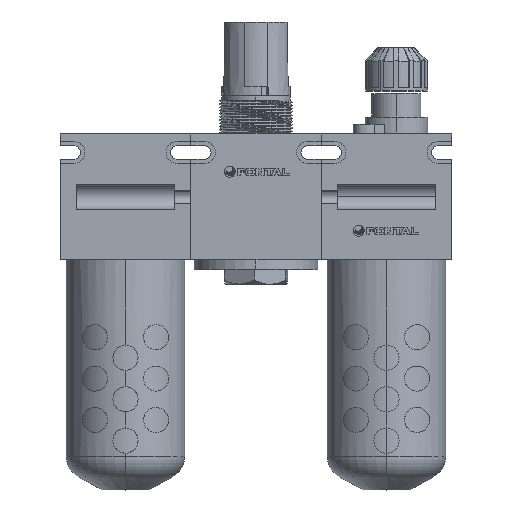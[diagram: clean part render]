
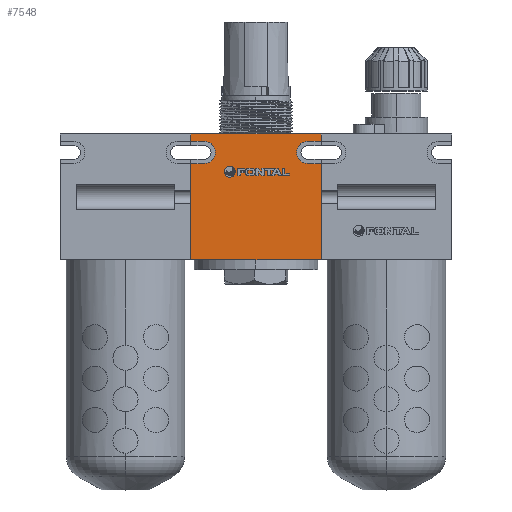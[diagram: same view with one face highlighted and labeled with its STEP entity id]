
A CAD part, top view. The second image highlights one B-rep face of the part: STEP entity #7548.
In plain terms, the highlighted planar face has unit normal (0, 0, 1).
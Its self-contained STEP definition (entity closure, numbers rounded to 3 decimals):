
#214 = DIRECTION ( 'NONE',  ( 1., 0., 0. ) ) ;
#229 = DIRECTION ( 'NONE',  ( 1., 0., 0. ) ) ;
#581 = ORIENTED_EDGE ( 'NONE', *, *, #19860, .T. ) ;
#582 = CARTESIAN_POINT ( 'NONE',  ( 26.5, 25.5, 25.5 ) ) ;
#812 = VERTEX_POINT ( 'NONE', #18726 ) ;
#925 = VERTEX_POINT ( 'NONE', #20853 ) ;
#1444 = DIRECTION ( 'NONE',  ( 0., -1., 0. ) ) ;
#1539 = EDGE_CURVE ( 'NONE', #12524, #925, #5278, .T. ) ;
#1547 = VECTOR ( 'NONE', #7945, 1000. ) ;
#1789 = CARTESIAN_POINT ( 'NONE',  ( -26.5, 25.5, 25.5 ) ) ;
#1966 = DIRECTION ( 'NONE',  ( 0., 0., 1. ) ) ;
#2139 = DIRECTION ( 'NONE',  ( 0., 1., 0. ) ) ;
#2257 = EDGE_CURVE ( 'NONE', #812, #12524, #16986, .T. ) ;
#2294 = CARTESIAN_POINT ( 'NONE',  ( 0., 0., 25.5 ) ) ;
#2313 = CARTESIAN_POINT ( 'NONE',  ( -26.5, 13.5, 25.5 ) ) ;
#2366 = VECTOR ( 'NONE', #1444, 1000. ) ;
#2632 = DIRECTION ( 'NONE',  ( 0., 0., 1. ) ) ;
#2669 = CIRCLE ( 'NONE', #4023, 4.5 ) ;
#2952 = EDGE_CURVE ( 'NONE', #14624, #11697, #2669, .T. ) ;
#3544 = LINE ( 'NONE', #11561, #4751 ) ;
#3821 = ORIENTED_EDGE ( 'NONE', *, *, #2952, .T. ) ;
#4023 = AXIS2_PLACEMENT_3D ( 'NONE', #4625, #15740, #18510 ) ;
#4254 = CARTESIAN_POINT ( 'NONE',  ( -26.5, 25.5, 25.5 ) ) ;
#4410 = EDGE_CURVE ( 'NONE', #7147, #11182, #5780, .T. ) ;
#4625 = CARTESIAN_POINT ( 'NONE',  ( 21., 18., 25.5 ) ) ;
#4751 = VECTOR ( 'NONE', #2139, 1000. ) ;
#4877 = CARTESIAN_POINT ( 'NONE',  ( 26.5, 25.5, 25.5 ) ) ;
#4900 = VERTEX_POINT ( 'NONE', #17738 ) ;
#5083 = VERTEX_POINT ( 'NONE', #5963 ) ;
#5237 = VERTEX_POINT ( 'NONE', #17291 ) ;
#5278 = CIRCLE ( 'NONE', #19491, 4.5 ) ;
#5391 = EDGE_CURVE ( 'NONE', #5083, #7147, #13265, .T. ) ;
#5392 = CARTESIAN_POINT ( 'NONE',  ( -26.5, -25.5, 25.5 ) ) ;
#5596 = DIRECTION ( 'NONE',  ( 0., 1., 0. ) ) ;
#5648 = CARTESIAN_POINT ( 'NONE',  ( -21., 18., 25.5 ) ) ;
#5780 = LINE ( 'NONE', #13474, #20144 ) ;
#5879 = CARTESIAN_POINT ( 'NONE',  ( -26.5, 13.5, 25.5 ) ) ;
#5963 = CARTESIAN_POINT ( 'NONE',  ( 26.5, 22.5, 25.5 ) ) ;
#6128 = DIRECTION ( 'NONE',  ( -1., 0., 0. ) ) ;
#6247 = ORIENTED_EDGE ( 'NONE', *, *, #14009, .F. ) ;
#6554 = CARTESIAN_POINT ( 'NONE',  ( -26.5, 25.5, 25.5 ) ) ;
#6584 = ORIENTED_EDGE ( 'NONE', *, *, #13483, .T. ) ;
#6856 = EDGE_CURVE ( 'NONE', #18719, #14624, #7539, .T. ) ;
#7102 = VERTEX_POINT ( 'NONE', #9976 ) ;
#7147 = VERTEX_POINT ( 'NONE', #582 ) ;
#7345 = CARTESIAN_POINT ( 'NONE',  ( -21., 22.5, 25.5 ) ) ;
#7539 = LINE ( 'NONE', #13132, #18003 ) ;
#7548 = ADVANCED_FACE ( 'NONE', ( #9959 ), #16560, .T. ) ;
#7713 = CARTESIAN_POINT ( 'NONE',  ( 26.5, 13.5, 25.5 ) ) ;
#7925 = CARTESIAN_POINT ( 'NONE',  ( -16.5, 18., 25.5 ) ) ;
#7945 = DIRECTION ( 'NONE',  ( 1., 0., 0. ) ) ;
#8268 = EDGE_CURVE ( 'NONE', #11697, #5083, #17644, .T. ) ;
#9328 = LINE ( 'NONE', #5879, #1547 ) ;
#9449 = DIRECTION ( 'NONE',  ( 1., 0., 0. ) ) ;
#9826 = LINE ( 'NONE', #1789, #2366 ) ;
#9959 = FACE_OUTER_BOUND ( 'NONE', #15009, .T. ) ;
#9976 = CARTESIAN_POINT ( 'NONE',  ( -26.5, 22.5, 25.5 ) ) ;
#9985 = DIRECTION ( 'NONE',  ( 1., 0., 0. ) ) ;
#10040 = EDGE_CURVE ( 'NONE', #10247, #4900, #16300, .T. ) ;
#10247 = VERTEX_POINT ( 'NONE', #2313 ) ;
#11106 = CARTESIAN_POINT ( 'NONE',  ( 21., 13.5, 25.5 ) ) ;
#11182 = VERTEX_POINT ( 'NONE', #4254 ) ;
#11561 = CARTESIAN_POINT ( 'NONE',  ( 26.5, 25.5, 25.5 ) ) ;
#11697 = VERTEX_POINT ( 'NONE', #20488 ) ;
#12074 = VECTOR ( 'NONE', #18921, 1000. ) ;
#12173 = VECTOR ( 'NONE', #17327, 1000. ) ;
#12430 = ORIENTED_EDGE ( 'NONE', *, *, #8268, .T. ) ;
#12524 = VERTEX_POINT ( 'NONE', #7925 ) ;
#13132 = CARTESIAN_POINT ( 'NONE',  ( 26.5, 13.5, 25.5 ) ) ;
#13265 = LINE ( 'NONE', #4877, #21408 ) ;
#13474 = CARTESIAN_POINT ( 'NONE',  ( -26.5, 25.5, 25.5 ) ) ;
#13483 = EDGE_CURVE ( 'NONE', #5237, #18719, #3544, .T. ) ;
#13825 = ORIENTED_EDGE ( 'NONE', *, *, #6856, .T. ) ;
#14009 = EDGE_CURVE ( 'NONE', #925, #7102, #16026, .T. ) ;
#14315 = ORIENTED_EDGE ( 'NONE', *, *, #19553, .F. ) ;
#14552 = CARTESIAN_POINT ( 'NONE',  ( -21., 18., 25.5 ) ) ;
#14624 = VERTEX_POINT ( 'NONE', #11106 ) ;
#14642 = ORIENTED_EDGE ( 'NONE', *, *, #5391, .T. ) ;
#15009 = EDGE_LOOP ( 'NONE', ( #6584, #13825, #3821, #12430, #14642, #19449, #581, #6247, #15985, #21493, #14315, #20773, #15237 ) ) ;
#15237 = ORIENTED_EDGE ( 'NONE', *, *, #16984, .T. ) ;
#15482 = VECTOR ( 'NONE', #17737, 1000. ) ;
#15740 = DIRECTION ( 'NONE',  ( 0., 0., -1. ) ) ;
#15985 = ORIENTED_EDGE ( 'NONE', *, *, #1539, .F. ) ;
#16026 = LINE ( 'NONE', #7345, #15482 ) ;
#16300 = LINE ( 'NONE', #6554, #12173 ) ;
#16560 = PLANE ( 'NONE',  #19378 ) ;
#16593 = CARTESIAN_POINT ( 'NONE',  ( 21., 22.5, 25.5 ) ) ;
#16984 = EDGE_CURVE ( 'NONE', #4900, #5237, #18212, .T. ) ;
#16986 = CIRCLE ( 'NONE', #19240, 4.5 ) ;
#17291 = CARTESIAN_POINT ( 'NONE',  ( 26.5, -25.5, 25.5 ) ) ;
#17327 = DIRECTION ( 'NONE',  ( 0., -1., 0. ) ) ;
#17644 = LINE ( 'NONE', #16593, #19365 ) ;
#17737 = DIRECTION ( 'NONE',  ( -1., 0., 0. ) ) ;
#17738 = CARTESIAN_POINT ( 'NONE',  ( -26.5, -25.5, 25.5 ) ) ;
#18003 = VECTOR ( 'NONE', #20090, 1000. ) ;
#18212 = LINE ( 'NONE', #5392, #12074 ) ;
#18510 = DIRECTION ( 'NONE',  ( -1., 0., 0. ) ) ;
#18719 = VERTEX_POINT ( 'NONE', #7713 ) ;
#18726 = CARTESIAN_POINT ( 'NONE',  ( -21., 13.5, 25.5 ) ) ;
#18921 = DIRECTION ( 'NONE',  ( 1., 0., 0. ) ) ;
#19240 = AXIS2_PLACEMENT_3D ( 'NONE', #5648, #19913, #9449 ) ;
#19365 = VECTOR ( 'NONE', #9985, 1000. ) ;
#19378 = AXIS2_PLACEMENT_3D ( 'NONE', #2294, #2632, #214 ) ;
#19449 = ORIENTED_EDGE ( 'NONE', *, *, #4410, .T. ) ;
#19491 = AXIS2_PLACEMENT_3D ( 'NONE', #14552, #1966, #229 ) ;
#19553 = EDGE_CURVE ( 'NONE', #10247, #812, #9328, .T. ) ;
#19860 = EDGE_CURVE ( 'NONE', #11182, #7102, #9826, .T. ) ;
#19913 = DIRECTION ( 'NONE',  ( 0., 0., 1. ) ) ;
#20090 = DIRECTION ( 'NONE',  ( -1., 0., 0. ) ) ;
#20144 = VECTOR ( 'NONE', #6128, 1000. ) ;
#20488 = CARTESIAN_POINT ( 'NONE',  ( 21., 22.5, 25.5 ) ) ;
#20773 = ORIENTED_EDGE ( 'NONE', *, *, #10040, .T. ) ;
#20853 = CARTESIAN_POINT ( 'NONE',  ( -21., 22.5, 25.5 ) ) ;
#21408 = VECTOR ( 'NONE', #5596, 1000. ) ;
#21493 = ORIENTED_EDGE ( 'NONE', *, *, #2257, .F. ) ;
